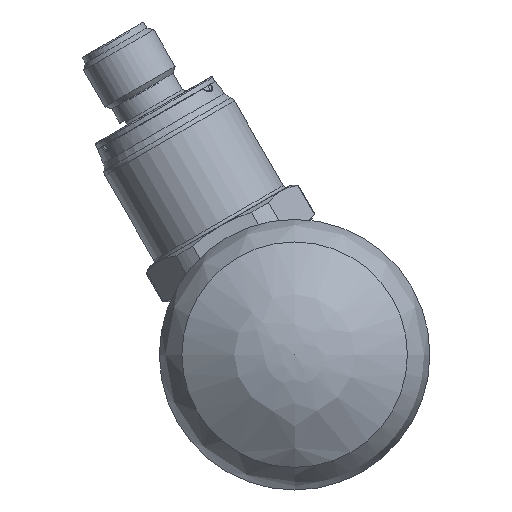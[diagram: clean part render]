
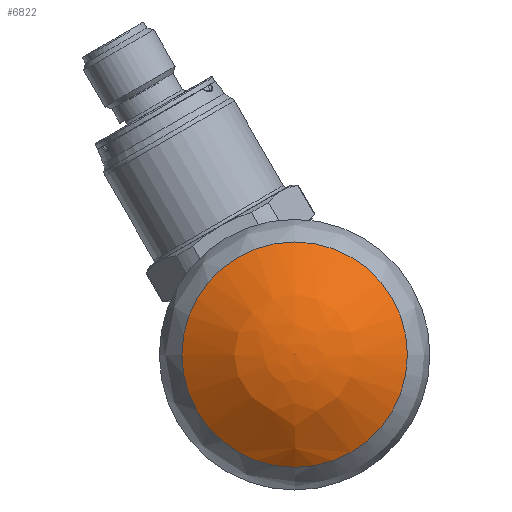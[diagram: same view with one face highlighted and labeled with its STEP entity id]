
A CAD part, front view. The second image highlights one B-rep face of the part: STEP entity #6822.
In plain terms, the highlighted free-form (B-spline) face has degree [2, 2] with [3, 9] control points.
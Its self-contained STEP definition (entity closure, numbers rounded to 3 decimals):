
#196=(
BOUNDED_SURFACE()
B_SPLINE_SURFACE(2,2,((#19478,#19479,#19480,#19481,#19482,#19483,#19484,
#19485,#19486),(#19487,#19488,#19489,#19490,#19491,#19492,#19493,#19494,
#19495),(#19496,#19497,#19498,#19499,#19500,#19501,#19502,#19503,#19504)),
 .UNSPECIFIED.,.F.,.T.,.F.)
B_SPLINE_SURFACE_WITH_KNOTS((3,3),(3,2,2,2,3),(-1.571,-0.841),
(-3.142,-1.571,0.,1.571,3.142),
 .UNSPECIFIED.)
GEOMETRIC_REPRESENTATION_ITEM()
RATIONAL_B_SPLINE_SURFACE(((1.,0.707,1.,0.707,1.,
0.707,1.,0.707,1.),(0.934,0.661,
0.934,0.661,0.934,0.661,
0.934,0.661,0.934),(1.,0.707,
1.,0.707,1.,0.707,1.,0.707,1.)))
REPRESENTATION_ITEM('')
SURFACE()
);
#828=CIRCLE('',#7319,16.667);
#829=CIRCLE('',#7320,25.);
#1203=FACE_OUTER_BOUND('',#1606,.T.);
#1606=EDGE_LOOP('',(#5794,#5795,#5796));
#2990=VERTEX_POINT('',#19505);
#2991=VERTEX_POINT('',#19507);
#3937=EDGE_CURVE('',#2990,#2990,#828,.T.);
#3938=EDGE_CURVE('',#2990,#2991,#829,.T.);
#5794=ORIENTED_EDGE('',*,*,#3937,.F.);
#5795=ORIENTED_EDGE('',*,*,#3938,.T.);
#5796=ORIENTED_EDGE('',*,*,#3938,.F.);
#6822=ADVANCED_FACE('',(#1203),#196,.F.);
#7319=AXIS2_PLACEMENT_3D('',#19506,#8643,#8644);
#7320=AXIS2_PLACEMENT_3D('',#19508,#8645,#8646);
#8643=DIRECTION('center_axis',(0.,1.,0.));
#8644=DIRECTION('ref_axis',(1.,0.,0.));
#8645=DIRECTION('center_axis',(-1.,0.,0.));
#8646=DIRECTION('ref_axis',(0.,0.,-1.));
#19478=CARTESIAN_POINT('Ctrl Pts',(0.,0.,
0.));
#19479=CARTESIAN_POINT('Ctrl Pts',(0.,0.,
0.));
#19480=CARTESIAN_POINT('Ctrl Pts',(0.,0.,
0.));
#19481=CARTESIAN_POINT('Ctrl Pts',(0.,0.,
0.));
#19482=CARTESIAN_POINT('Ctrl Pts',(0.,0.,
0.));
#19483=CARTESIAN_POINT('Ctrl Pts',(0.,0.,
0.));
#19484=CARTESIAN_POINT('Ctrl Pts',(0.,0.,
0.));
#19485=CARTESIAN_POINT('Ctrl Pts',(0.,0.,
0.));
#19486=CARTESIAN_POINT('Ctrl Pts',(0.,0.,
0.));
#19487=CARTESIAN_POINT('Ctrl Pts',(0.,0.,
-9.549));
#19488=CARTESIAN_POINT('Ctrl Pts',(-9.549,0.,
-9.549));
#19489=CARTESIAN_POINT('Ctrl Pts',(-9.549,0.,
0.));
#19490=CARTESIAN_POINT('Ctrl Pts',(-9.549,0.,
9.549));
#19491=CARTESIAN_POINT('Ctrl Pts',(0.,0.,
9.549));
#19492=CARTESIAN_POINT('Ctrl Pts',(9.549,0.,
9.549));
#19493=CARTESIAN_POINT('Ctrl Pts',(9.549,0.,
0.));
#19494=CARTESIAN_POINT('Ctrl Pts',(9.549,0.,
-9.549));
#19495=CARTESIAN_POINT('Ctrl Pts',(0.,0.,
-9.549));
#19496=CARTESIAN_POINT('Ctrl Pts',(0.,6.366,
-16.667));
#19497=CARTESIAN_POINT('Ctrl Pts',(-16.667,6.366,-16.667));
#19498=CARTESIAN_POINT('Ctrl Pts',(-16.667,6.366,0.));
#19499=CARTESIAN_POINT('Ctrl Pts',(-16.667,6.366,16.667));
#19500=CARTESIAN_POINT('Ctrl Pts',(0.,6.366,
16.667));
#19501=CARTESIAN_POINT('Ctrl Pts',(16.667,6.366,16.667));
#19502=CARTESIAN_POINT('Ctrl Pts',(16.667,6.366,0.));
#19503=CARTESIAN_POINT('Ctrl Pts',(16.667,6.366,-16.667));
#19504=CARTESIAN_POINT('Ctrl Pts',(0.,6.366,
-16.667));
#19505=CARTESIAN_POINT('',(0.,6.366,-16.667));
#19506=CARTESIAN_POINT('Origin',(0.,6.366,
0.));
#19507=CARTESIAN_POINT('',(0.,0.,0.));
#19508=CARTESIAN_POINT('Origin',(0.,25.,
0.));
